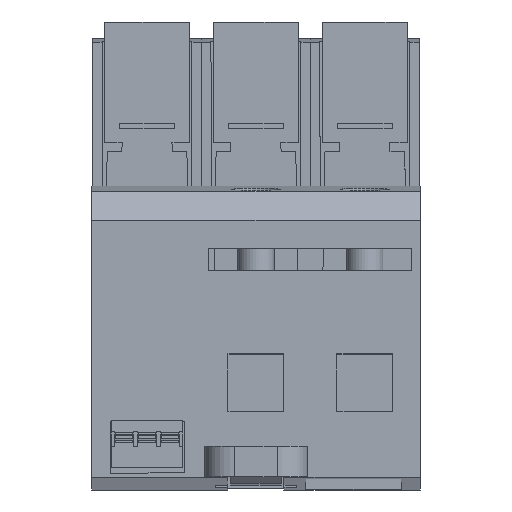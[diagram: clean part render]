
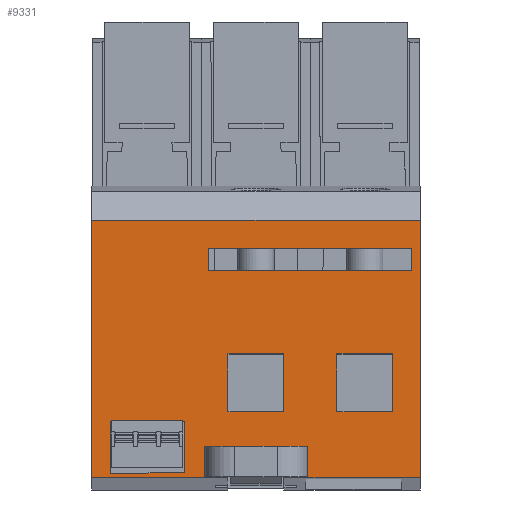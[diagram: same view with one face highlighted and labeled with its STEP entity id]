
A CAD part, front view. The second image highlights one B-rep face of the part: STEP entity #9331.
In plain terms, the highlighted planar face has unit normal (0, -1, 0.003).
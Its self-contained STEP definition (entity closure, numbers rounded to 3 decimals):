
#84=DIRECTION('',(0.,-0.003,-1.));
#85=VECTOR('',#84,42.487);
#86=CARTESIAN_POINT('',(0.,14.488,44.53));
#87=LINE('',#86,#85);
#2047=DIRECTION('',(1.,0.,0.));
#2048=VECTOR('',#2047,22.502);
#2049=CARTESIAN_POINT('',(0.,14.377,2.044));
#2050=LINE('',#2049,#2048);
#2089=DIRECTION('',(1.,0.,0.));
#2090=VECTOR('',#2089,22.522);
#2091=CARTESIAN_POINT('',(31.758,14.377,2.044));
#2092=LINE('',#2091,#2090);
#2159=DIRECTION('',(0.,-0.003,-1.));
#2160=VECTOR('',#2159,3.4);
#2161=CARTESIAN_POINT('',(20.146,14.39,7.124));
#2162=LINE('',#2161,#2160);
#2166=DIRECTION('',(1.,0.,0.));
#2167=VECTOR('',#2166,2.356);
#2168=CARTESIAN_POINT('',(20.146,14.381,3.724));
#2169=LINE('',#2168,#2167);
#2173=DIRECTION('',(0.,0.003,1.));
#2174=VECTOR('',#2173,1.68);
#2175=CARTESIAN_POINT('',(22.502,14.377,2.044));
#2176=LINE('',#2175,#2174);
#2180=DIRECTION('',(1.,0.,0.));
#2181=VECTOR('',#2180,54.28);
#2182=CARTESIAN_POINT('',(0.,14.488,44.53));
#2183=LINE('',#2182,#2181);
#2187=DIRECTION('',(0.,0.003,1.));
#2188=VECTOR('',#2187,1.68);
#2189=CARTESIAN_POINT('',(31.758,14.377,2.044));
#2190=LINE('',#2189,#2188);
#2194=DIRECTION('',(1.,0.,0.));
#2195=VECTOR('',#2194,2.356);
#2196=CARTESIAN_POINT('',(31.758,14.381,3.724));
#2197=LINE('',#2196,#2195);
#2201=DIRECTION('',(0.,-0.003,-1.));
#2202=VECTOR('',#2201,3.4);
#2203=CARTESIAN_POINT('',(34.114,14.39,7.124));
#2204=LINE('',#2203,#2202);
#2208=DIRECTION('',(1.,0.,0.));
#2209=VECTOR('',#2208,9.241);
#2210=CARTESIAN_POINT('',(22.509,14.405,12.879));
#2211=LINE('',#2210,#2209);
#2215=DIRECTION('',(0.,0.003,1.));
#2216=VECTOR('',#2215,9.564);
#2217=CARTESIAN_POINT('',(31.751,14.405,12.879));
#2218=LINE('',#2217,#2216);
#2222=DIRECTION('',(-1.,0.,0.));
#2223=VECTOR('',#2222,9.236);
#2224=CARTESIAN_POINT('',(31.748,14.43,22.443));
#2225=LINE('',#2224,#2223);
#2229=DIRECTION('',(0.,-0.003,-1.));
#2230=VECTOR('',#2229,9.564);
#2231=CARTESIAN_POINT('',(22.512,14.43,22.443));
#2232=LINE('',#2231,#2230);
#2236=DIRECTION('',(0.,0.003,1.));
#2237=VECTOR('',#2236,9.564);
#2238=CARTESIAN_POINT('',(49.751,14.405,12.879));
#2239=LINE('',#2238,#2237);
#2243=DIRECTION('',(-1.,0.,0.));
#2244=VECTOR('',#2243,9.236);
#2245=CARTESIAN_POINT('',(49.748,14.43,22.443));
#2246=LINE('',#2245,#2244);
#2250=DIRECTION('',(0.,-0.003,-1.));
#2251=VECTOR('',#2250,9.564);
#2252=CARTESIAN_POINT('',(40.512,14.43,22.443));
#2253=LINE('',#2252,#2251);
#2257=DIRECTION('',(1.,0.,0.));
#2258=VECTOR('',#2257,9.241);
#2259=CARTESIAN_POINT('',(40.509,14.405,12.879));
#2260=LINE('',#2259,#2258);
#2264=DIRECTION('',(0.,-0.003,-1.));
#2265=VECTOR('',#2264,3.734);
#2266=CARTESIAN_POINT('',(19.213,14.476,39.892));
#2267=LINE('',#2266,#2265);
#2271=DIRECTION('',(1.,0.,0.));
#2272=VECTOR('',#2271,33.702);
#2273=CARTESIAN_POINT('',(19.213,14.466,36.158));
#2274=LINE('',#2273,#2272);
#2278=DIRECTION('',(0.,0.003,1.));
#2279=VECTOR('',#2278,3.734);
#2280=CARTESIAN_POINT('',(52.915,14.466,36.158));
#2281=LINE('',#2280,#2279);
#2285=DIRECTION('',(-1.,0.,0.));
#2286=VECTOR('',#2285,33.702);
#2287=CARTESIAN_POINT('',(52.915,14.476,39.892));
#2288=LINE('',#2287,#2286);
#2292=DIRECTION('',(0.,-0.003,-1.));
#2293=VECTOR('',#2292,8.693);
#2294=CARTESIAN_POINT('',(3.113,14.401,11.32));
#2295=LINE('',#2294,#2293);
#2299=DIRECTION('',(1.,0.,0.017));
#2300=VECTOR('',#2299,12.187);
#2301=CARTESIAN_POINT('',(3.113,14.379,2.627));
#2302=LINE('',#2301,#2300);
#2306=DIRECTION('',(0.,0.003,1.));
#2307=VECTOR('',#2306,8.48);
#2308=CARTESIAN_POINT('',(15.297,14.379,2.84));
#2309=LINE('',#2308,#2307);
#2313=DIRECTION('',(-1.,0.,0.));
#2314=VECTOR('',#2313,12.185);
#2315=CARTESIAN_POINT('',(15.297,14.401,11.32));
#2316=LINE('',#2315,#2314);
#2320=DIRECTION('',(1.,0.,0.));
#2321=VECTOR('',#2320,13.968);
#2322=CARTESIAN_POINT('',(20.146,14.39,7.124));
#2323=LINE('',#2322,#2321);
#2649=DIRECTION('',(0.,-0.003,-1.));
#2650=VECTOR('',#2649,42.487);
#2651=CARTESIAN_POINT('',(54.28,14.488,44.53));
#2652=LINE('',#2651,#2650);
#6396=CARTESIAN_POINT('',(22.502,14.381,3.724));
#6398=VERTEX_POINT('',#6396);
#6422=CARTESIAN_POINT('',(31.758,14.381,3.724));
#6423=VERTEX_POINT('',#6422);
#6444=CARTESIAN_POINT('',(34.114,14.381,3.724));
#6445=VERTEX_POINT('',#6444);
#6446=CARTESIAN_POINT('',(20.146,14.381,3.724));
#6447=VERTEX_POINT('',#6446);
#6448=CARTESIAN_POINT('',(20.146,14.39,7.124));
#6449=VERTEX_POINT('',#6448);
#6818=CARTESIAN_POINT('',(22.509,14.405,12.879));
#6819=VERTEX_POINT('',#6818);
#6820=CARTESIAN_POINT('',(31.751,14.405,12.879));
#6821=VERTEX_POINT('',#6820);
#6822=CARTESIAN_POINT('',(31.748,14.43,22.443));
#6823=VERTEX_POINT('',#6822);
#6824=CARTESIAN_POINT('',(22.512,14.43,22.443));
#6825=VERTEX_POINT('',#6824);
#6826=CARTESIAN_POINT('',(49.751,14.405,12.879));
#6827=VERTEX_POINT('',#6826);
#6828=CARTESIAN_POINT('',(49.748,14.43,22.443));
#6829=VERTEX_POINT('',#6828);
#6830=CARTESIAN_POINT('',(40.512,14.43,22.443));
#6831=VERTEX_POINT('',#6830);
#6832=CARTESIAN_POINT('',(40.509,14.405,12.879));
#6833=VERTEX_POINT('',#6832);
#6834=CARTESIAN_POINT('',(19.213,14.476,39.892));
#6835=VERTEX_POINT('',#6834);
#6836=CARTESIAN_POINT('',(19.213,14.466,36.158));
#6837=VERTEX_POINT('',#6836);
#6838=CARTESIAN_POINT('',(52.915,14.466,36.158));
#6839=VERTEX_POINT('',#6838);
#6840=CARTESIAN_POINT('',(52.915,14.476,39.892));
#6841=VERTEX_POINT('',#6840);
#6850=CARTESIAN_POINT('',(3.113,14.401,11.32));
#6851=VERTEX_POINT('',#6850);
#6852=CARTESIAN_POINT('',(3.113,14.379,2.627));
#6853=VERTEX_POINT('',#6852);
#6854=CARTESIAN_POINT('',(15.297,14.379,2.84));
#6855=VERTEX_POINT('',#6854);
#6856=CARTESIAN_POINT('',(15.297,14.401,11.32));
#6857=VERTEX_POINT('',#6856);
#7106=CARTESIAN_POINT('',(34.114,14.39,7.124));
#7107=VERTEX_POINT('',#7106);
#7109=CARTESIAN_POINT('',(0.,14.488,44.53));
#7111=VERTEX_POINT('',#7109);
#7112=CARTESIAN_POINT('',(0.,14.377,2.044));
#7113=VERTEX_POINT('',#7112);
#7131=CARTESIAN_POINT('',(54.28,14.488,44.53));
#7133=VERTEX_POINT('',#7131);
#7134=CARTESIAN_POINT('',(54.28,14.377,2.044));
#7135=VERTEX_POINT('',#7134);
#7152=CARTESIAN_POINT('',(22.502,14.377,2.044));
#7153=VERTEX_POINT('',#7152);
#7158=CARTESIAN_POINT('',(31.758,14.377,2.044));
#7159=VERTEX_POINT('',#7158);
#9266=CARTESIAN_POINT('',(0.,14.488,44.53));
#9267=DIRECTION('',(0.,-1.,0.003));
#9268=DIRECTION('',(0.,-0.003,-1.));
#9269=AXIS2_PLACEMENT_3D('',#9266,#9267,#9268);
#9270=PLANE('',#9269);
#9272=ORIENTED_EDGE('',*,*,#9271,.F.);
#9274=ORIENTED_EDGE('',*,*,#9273,.T.);
#9275=ORIENTED_EDGE('',*,*,#9209,.T.);
#9276=ORIENTED_EDGE('',*,*,#9198,.F.);
#9277=ORIENTED_EDGE('',*,*,#9126,.F.);
#9278=ORIENTED_EDGE('',*,*,#7433,.F.);
#9280=ORIENTED_EDGE('',*,*,#9279,.T.);
#9282=ORIENTED_EDGE('',*,*,#9281,.T.);
#9283=ORIENTED_EDGE('',*,*,#9146,.F.);
#9285=ORIENTED_EDGE('',*,*,#9284,.T.);
#9286=ORIENTED_EDGE('',*,*,#9259,.T.);
#9288=ORIENTED_EDGE('',*,*,#9287,.F.);
#9289=EDGE_LOOP('',(#9272,#9274,#9275,#9276,#9277,#9278,#9280,#9282,#9283,#9285,
#9286,#9288));
#9290=FACE_OUTER_BOUND('',#9289,.F.);
#9292=ORIENTED_EDGE('',*,*,#9291,.T.);
#9294=ORIENTED_EDGE('',*,*,#9293,.T.);
#9296=ORIENTED_EDGE('',*,*,#9295,.T.);
#9298=ORIENTED_EDGE('',*,*,#9297,.T.);
#9299=EDGE_LOOP('',(#9292,#9294,#9296,#9298));
#9300=FACE_BOUND('',#9299,.F.);
#9302=ORIENTED_EDGE('',*,*,#9301,.T.);
#9304=ORIENTED_EDGE('',*,*,#9303,.T.);
#9306=ORIENTED_EDGE('',*,*,#9305,.T.);
#9308=ORIENTED_EDGE('',*,*,#9307,.T.);
#9309=EDGE_LOOP('',(#9302,#9304,#9306,#9308));
#9310=FACE_BOUND('',#9309,.F.);
#9312=ORIENTED_EDGE('',*,*,#9311,.T.);
#9314=ORIENTED_EDGE('',*,*,#9313,.T.);
#9316=ORIENTED_EDGE('',*,*,#9315,.T.);
#9318=ORIENTED_EDGE('',*,*,#9317,.T.);
#9319=EDGE_LOOP('',(#9312,#9314,#9316,#9318));
#9320=FACE_BOUND('',#9319,.F.);
#9322=ORIENTED_EDGE('',*,*,#9321,.T.);
#9324=ORIENTED_EDGE('',*,*,#9323,.T.);
#9326=ORIENTED_EDGE('',*,*,#9325,.T.);
#9328=ORIENTED_EDGE('',*,*,#9327,.T.);
#9329=EDGE_LOOP('',(#9322,#9324,#9326,#9328));
#9330=FACE_BOUND('',#9329,.F.);
#7433=EDGE_CURVE('',#7111,#7113,#87,.T.);
#9126=EDGE_CURVE('',#7113,#7153,#2050,.T.);
#9146=EDGE_CURVE('',#7159,#7135,#2092,.T.);
#9198=EDGE_CURVE('',#7153,#6398,#2176,.T.);
#9209=EDGE_CURVE('',#6447,#6398,#2169,.T.);
#9259=EDGE_CURVE('',#6423,#6445,#2197,.T.);
#9271=EDGE_CURVE('',#6449,#7107,#2323,.T.);
#9273=EDGE_CURVE('',#6449,#6447,#2162,.T.);
#9279=EDGE_CURVE('',#7111,#7133,#2183,.T.);
#9281=EDGE_CURVE('',#7133,#7135,#2652,.T.);
#9284=EDGE_CURVE('',#7159,#6423,#2190,.T.);
#9287=EDGE_CURVE('',#7107,#6445,#2204,.T.);
#9291=EDGE_CURVE('',#6819,#6821,#2211,.T.);
#9293=EDGE_CURVE('',#6821,#6823,#2218,.T.);
#9295=EDGE_CURVE('',#6823,#6825,#2225,.T.);
#9297=EDGE_CURVE('',#6825,#6819,#2232,.T.);
#9301=EDGE_CURVE('',#6827,#6829,#2239,.T.);
#9303=EDGE_CURVE('',#6829,#6831,#2246,.T.);
#9305=EDGE_CURVE('',#6831,#6833,#2253,.T.);
#9307=EDGE_CURVE('',#6833,#6827,#2260,.T.);
#9311=EDGE_CURVE('',#6835,#6837,#2267,.T.);
#9313=EDGE_CURVE('',#6837,#6839,#2274,.T.);
#9315=EDGE_CURVE('',#6839,#6841,#2281,.T.);
#9317=EDGE_CURVE('',#6841,#6835,#2288,.T.);
#9321=EDGE_CURVE('',#6851,#6853,#2295,.T.);
#9323=EDGE_CURVE('',#6853,#6855,#2302,.T.);
#9325=EDGE_CURVE('',#6855,#6857,#2309,.T.);
#9327=EDGE_CURVE('',#6857,#6851,#2316,.T.);
#9331=ADVANCED_FACE('',(#9290,#9300,#9310,#9320,#9330),#9270,.T.);
